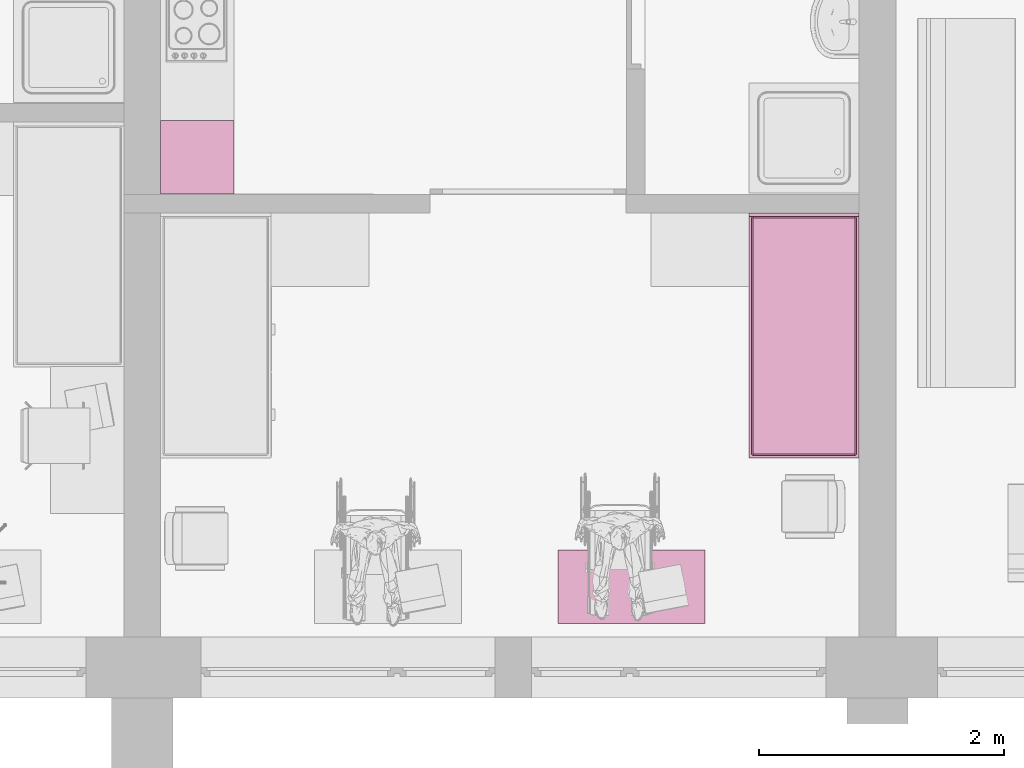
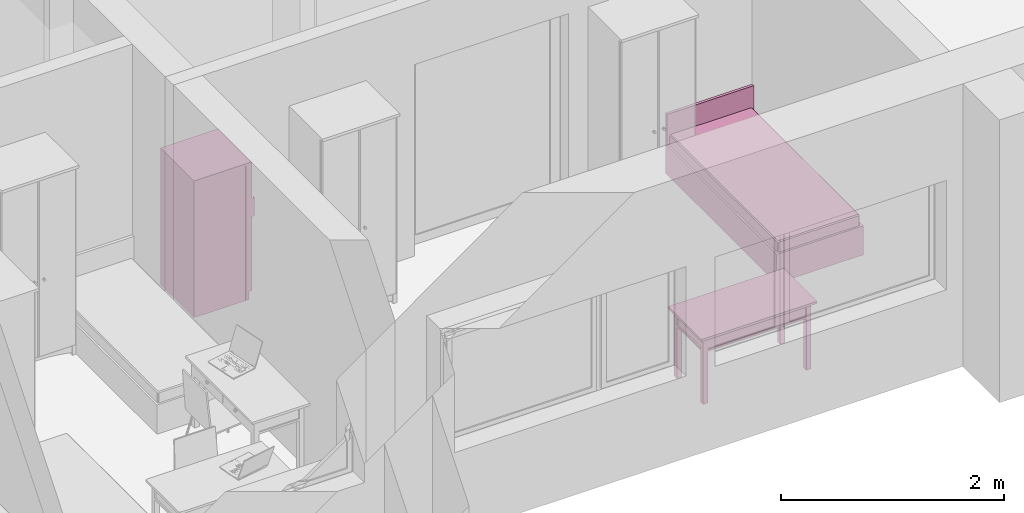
# One storey, part 119 of 172: 3 furnishings.
"""IFC2X3 building model written with IfcOpenShell, lengths in millimetres."""

from ifc_helpers import new_model, entity, si_unit, converted_unit, money_unit, direction, frame, origin_with_axes, place, context, subcontext, project, spatial, open_shell, faceted_brep, surface_model, source, transform, mapped, material, material_list, type_object, element, save


model = new_model("IFC2X3")

# Units and contexts
model_context = context("Model", 3, precision=1e-05, world=origin_with_axes(), true_north=direction((0.0, 1.0)))
body_context = subcontext(model_context, "Body", "Model", "MODEL_VIEW")
ifc_project = project(units=[si_unit("LENGTHUNIT", "METRE", prefix="MILLI"), si_unit("AREAUNIT", "SQUARE_METRE"), si_unit("VOLUMEUNIT", "CUBIC_METRE"), converted_unit("PLANEANGLEUNIT", "DEGREE", entity("IfcPlaneAngleMeasure", 0.0174532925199), si_unit("PLANEANGLEUNIT", "RADIAN"), dimensions=[0, 0, 0, 0, 0, 0, 0]), si_unit("SOLIDANGLEUNIT", "STERADIAN"), money_unit("USD"), converted_unit("TIMEUNIT", "Year", entity("IfcTimeMeasure", 31556926.0), si_unit("TIMEUNIT", "SECOND"), dimensions=[0, 0, 0, 0, 0, 0, 0]), si_unit("MASSUNIT", "GRAM"), si_unit("THERMODYNAMICTEMPERATUREUNIT", "DEGREE_CELSIUS"), si_unit("LUMINOUSINTENSITYUNIT", "LUMEN")], contexts=[model_context])

# Site, building, storey
site_placement = place(None, origin_with_axes())
site = spatial("IfcSite", under=ifc_project, at=site_placement, Name="Site", CompositionType="ELEMENT")
building_placement = place(site_placement, origin_with_axes())
building = spatial("IfcBuilding", under=site, at=building_placement, Name="Building", CompositionType="ELEMENT")
storey_placement = place(building_placement, frame((0.0, 0.0, 3200.0), z_axis=(0.0, 0.0, 1.0), x_axis=(1.0, 0.0, 0.0)))
storey = spatial("IfcBuildingStorey", under=building, at=storey_placement, Name="3KORRUS", CompositionType="ELEMENT", Elevation=3200.0)

# Furnishings
ifc_material = material(Name="Background")
ifc_material_list = material_list([ifc_material])
furnishing_element_type_1 = type_object("IfcFurnishingElementType", Name="Bed 19")
shared_shape_1 = source(origin_with_axes(), body_context, "Body", "Brep", [
    faceted_brep([(900.0, 1970.0, 0.0), (0.0, 1970.0, 0.0), (0.0, 2000.0, 0.0), (900.0, 2000.0, 0.0), (900.0, 1970.0, 660.0), (0.0, 1970.0, 660.0), (0.0, 2000.0, 660.0), (900.0, 2000.0, 660.0)], [[[0, 1, 2, 3]], [[1, 0, 4, 5]], [[2, 1, 5, 6]], [[3, 2, 6, 7]], [[0, 3, 7, 4]], [[5, 4, 7, 6]]]),
    faceted_brep([(900.0, 0.0, 0.0), (0.0, 0.0, 0.0), (0.0, 1970.0, 0.0), (900.0, 1970.0, 0.0), (900.0, 0.0, 320.0), (0.0, 0.0, 320.0), (0.0, 1970.0, 320.0), (900.0, 1970.0, 320.0)], [[[0, 1, 2, 3]], [[1, 0, 4, 5]], [[2, 1, 5, 6]], [[3, 2, 6, 7]], [[0, 3, 7, 4]], [[5, 4, 7, 6]]]),
    faceted_brep([(905.0, 10.0, 30.0), (900.0, 10.0, 30.0), (900.0, 695.0, 30.0), (905.0, 695.0, 30.0), (905.0, 10.0, 290.0), (900.0, 10.0, 290.0), (900.0, 695.0, 290.0), (905.0, 695.0, 290.0)], [[[0, 1, 2, 3]], [[1, 0, 4, 5]], [[2, 1, 5, 6]], [[3, 2, 6, 7]], [[0, 3, 7, 4]], [[5, 4, 7, 6]]]),
    faceted_brep([(935.0, 307.5, 150.0), (905.0, 307.5, 150.0), (905.0, 397.5, 150.0), (935.0, 397.5, 150.0), (935.0, 307.5, 170.0), (905.0, 307.5, 170.0), (905.0, 397.5, 170.0), (935.0, 397.5, 170.0)], [[[0, 1, 2, 3]], [[1, 0, 4, 5]], [[2, 1, 5, 6]], [[3, 2, 6, 7]], [[0, 3, 7, 4]], [[5, 4, 7, 6]]]),
    faceted_brep([(905.0, 705.0, 30.0), (900.0, 705.0, 30.0), (900.0, 1390.0, 30.0), (905.0, 1390.0, 30.0), (905.0, 705.0, 290.0), (900.0, 705.0, 290.0), (900.0, 1390.0, 290.0), (905.0, 1390.0, 290.0)], [[[0, 1, 2, 3]], [[1, 0, 4, 5]], [[2, 1, 5, 6]], [[3, 2, 6, 7]], [[0, 3, 7, 4]], [[5, 4, 7, 6]]]),
    faceted_brep([(935.0, 1002.5, 150.0), (905.0, 1002.5, 150.0), (905.0, 1092.5, 150.0), (935.0, 1092.5, 150.0), (935.0, 1002.5, 170.0), (905.0, 1002.5, 170.0), (905.0, 1092.5, 170.0), (935.0, 1092.5, 170.0)], [[[0, 1, 2, 3]], [[1, 0, 4, 5]], [[2, 1, 5, 6]], [[3, 2, 6, 7]], [[0, 3, 7, 4]], [[5, 4, 7, 6]]]),
    faceted_brep([(20.0, 40.0, 350.0), (20.0, 1950.0, 350.0), (21.522, 1957.654, 350.0), (25.858, 1964.142, 350.0), (32.346, 1968.478, 350.0), (40.0, 1970.0, 350.0), (860.0, 1970.0, 350.0), (867.654, 1968.478, 350.0), (874.142, 1964.142, 350.0), (878.478, 1957.654, 350.0), (880.0, 1950.0, 350.0), (880.0, 40.0, 350.0), (878.478, 32.346, 350.0), (874.142, 25.858, 350.0), (867.654, 21.522, 350.0), (860.0, 20.0, 350.0), (40.0, 20.0, 350.0), (32.346, 21.522, 350.0), (25.858, 25.858, 350.0), (21.522, 32.346, 350.0), (20.0, 40.0, 420.0), (20.0, 1950.0, 420.0), (21.522, 1957.654, 420.0), (25.858, 1964.142, 420.0), (32.346, 1968.478, 420.0), (40.0, 1970.0, 420.0), (860.0, 1970.0, 420.0), (867.654, 1968.478, 420.0), (874.142, 1964.142, 420.0), (878.478, 1957.654, 420.0), (880.0, 1950.0, 420.0), (880.0, 40.0, 420.0), (878.478, 32.346, 420.0), (874.142, 25.858, 420.0), (867.654, 21.522, 420.0), (860.0, 20.0, 420.0), (40.0, 20.0, 420.0), (32.346, 21.522, 420.0), (25.858, 25.858, 420.0), (21.522, 32.346, 420.0), (21.522, 40.15, 427.654), (21.522, 1949.85, 427.654), (22.956, 1957.06, 427.654), (26.955, 1963.045, 427.654), (32.94, 1967.044, 427.654), (40.15, 1968.478, 427.654), (859.85, 1968.478, 427.654), (867.06, 1967.044, 427.654), (873.045, 1963.045, 427.654), (877.044, 1957.06, 427.654), (878.478, 1949.85, 427.654), (878.478, 40.15, 427.654), (877.044, 32.94, 427.654), (873.045, 26.955, 427.654), (867.06, 22.956, 427.654), (859.85, 21.522, 427.654), (40.15, 21.522, 427.654), (32.94, 22.956, 427.654), (26.955, 26.955, 427.654), (22.956, 32.94, 427.654), (32.346, 41.216, 438.478), (32.346, 1948.784, 438.478), (33.152, 1952.836, 438.478), (34.759, 1955.241, 438.478), (37.164, 1956.848, 438.478), (41.216, 1957.654, 438.478), (858.784, 1957.654, 438.478), (862.836, 1956.848, 438.478), (865.241, 1955.241, 438.478), (866.848, 1952.836, 438.478), (867.654, 1948.784, 438.478), (867.654, 41.216, 438.478), (866.848, 37.164, 438.478), (865.241, 34.759, 438.478), (862.836, 33.152, 438.478), (858.784, 32.346, 438.478), (41.216, 32.346, 438.478), (37.164, 33.152, 438.478), (34.759, 34.759, 438.478), (33.152, 37.164, 438.478), (40.0, 41.97, 440.0), (40.0, 1948.03, 440.0), (40.327, 1949.673, 440.0), (40.0, 1950.0, 439.924), (41.97, 1950.0, 440.0), (858.03, 1950.0, 440.0), (859.673, 1949.673, 440.0), (860.0, 1950.0, 439.924), (860.0, 1948.03, 440.0), (860.0, 41.97, 440.0), (859.673, 40.327, 440.0), (860.0, 40.0, 439.924), (858.03, 40.0, 440.0), (41.97, 40.0, 440.0), (40.327, 40.327, 440.0), (40.0, 40.0, 439.924)], [[[0, 1, 2, 3, 4, 5, 6, 7, 8, 9, 10, 11, 12, 13, 14, 15, 16, 17, 18, 19]], [[1, 0, 20, 21]], [[2, 1, 21, 22]], [[3, 2, 22, 23]], [[4, 3, 23, 24]], [[5, 4, 24, 25]], [[6, 5, 25, 26]], [[7, 6, 26, 27]], [[8, 7, 27, 28]], [[9, 8, 28, 29]], [[10, 9, 29, 30]], [[11, 10, 30, 31]], [[12, 11, 31, 32]], [[13, 12, 32, 33]], [[14, 13, 33, 34]], [[15, 14, 34, 35]], [[16, 15, 35, 36]], [[17, 16, 36, 37]], [[18, 17, 37, 38]], [[19, 18, 38, 39]], [[0, 19, 39, 20]], [[21, 20, 40, 41]], [[22, 21, 41, 42]], [[23, 22, 42, 43]], [[24, 23, 43, 44]], [[25, 24, 44, 45]], [[26, 25, 45, 46]], [[27, 26, 46, 47]], [[28, 27, 47, 48]], [[29, 28, 48, 49]], [[30, 29, 49, 50]], [[31, 30, 50, 51]], [[32, 31, 51, 52]], [[33, 32, 52, 53]], [[34, 33, 53, 54]], [[35, 34, 54, 55]], [[36, 35, 55, 56]], [[37, 36, 56, 57]], [[38, 37, 57, 58]], [[39, 38, 58, 59]], [[20, 39, 59, 40]], [[41, 40, 60, 61]], [[42, 41, 61, 62]], [[43, 42, 62, 63]], [[44, 43, 63, 64]], [[45, 44, 64, 65]], [[46, 45, 65, 66]], [[47, 46, 66, 67]], [[48, 47, 67, 68]], [[49, 48, 68, 69]], [[50, 49, 69, 70]], [[51, 50, 70, 71]], [[52, 51, 71, 72]], [[53, 52, 72, 73]], [[54, 53, 73, 74]], [[55, 54, 74, 75]], [[56, 55, 75, 76]], [[57, 56, 76, 77]], [[58, 57, 77, 78]], [[59, 58, 78, 79]], [[40, 59, 79, 60]], [[61, 60, 80, 81]], [[62, 61, 81, 82, 83]], [[63, 62, 83]], [[64, 63, 83]], [[65, 64, 83, 82, 84]], [[66, 65, 84, 85]], [[67, 66, 85, 86, 87]], [[68, 67, 87]], [[69, 68, 87]], [[70, 69, 87, 86, 88]], [[71, 70, 88, 89]], [[72, 71, 89, 90, 91]], [[73, 72, 91]], [[74, 73, 91]], [[75, 74, 91, 90, 92]], [[76, 75, 92, 93]], [[77, 76, 93, 94, 95]], [[78, 77, 95]], [[79, 78, 95]], [[60, 79, 95, 94, 80]], [[81, 80, 94, 93, 92, 90, 89, 88, 86, 85, 84, 82]]]),
    faceted_brep([(20.0, 40.0, 350.0), (21.522, 32.346, 350.0), (25.858, 25.858, 350.0), (32.346, 21.522, 350.0), (40.0, 20.0, 350.0), (860.0, 20.0, 350.0), (867.654, 21.522, 350.0), (874.142, 25.858, 350.0), (878.478, 32.346, 350.0), (880.0, 40.0, 350.0), (880.0, 1950.0, 350.0), (878.478, 1957.654, 350.0), (874.142, 1964.142, 350.0), (867.654, 1968.478, 350.0), (860.0, 1970.0, 350.0), (40.0, 1970.0, 350.0), (32.346, 1968.478, 350.0), (25.858, 1964.142, 350.0), (21.522, 1957.654, 350.0), (20.0, 1950.0, 350.0), (20.0, 40.0, 320.0), (21.522, 32.346, 320.0), (25.858, 25.858, 320.0), (32.346, 21.522, 320.0), (40.0, 20.0, 320.0), (860.0, 20.0, 320.0), (867.654, 21.522, 320.0), (874.142, 25.858, 320.0), (878.478, 32.346, 320.0), (880.0, 40.0, 320.0), (880.0, 1950.0, 320.0), (878.478, 1957.654, 320.0), (874.142, 1964.142, 320.0), (867.654, 1968.478, 320.0), (860.0, 1970.0, 320.0), (40.0, 1970.0, 320.0), (32.346, 1968.478, 320.0), (25.858, 1964.142, 320.0), (21.522, 1957.654, 320.0), (20.0, 1950.0, 320.0)], [[[0, 1, 2, 3, 4, 5, 6, 7, 8, 9, 10, 11, 12, 13, 14, 15, 16, 17, 18, 19]], [[0, 20, 21, 1]], [[1, 21, 22, 2]], [[2, 22, 23, 3]], [[3, 23, 24, 4]], [[4, 24, 25, 5]], [[5, 25, 26, 6]], [[6, 26, 27, 7]], [[7, 27, 28, 8]], [[8, 28, 29, 9]], [[9, 29, 30, 10]], [[10, 30, 31, 11]], [[11, 31, 32, 12]], [[12, 32, 33, 13]], [[13, 33, 34, 14]], [[14, 34, 35, 15]], [[15, 35, 36, 16]], [[16, 36, 37, 17]], [[17, 37, 38, 18]], [[18, 38, 39, 19]], [[19, 39, 20, 0]], [[20, 39, 38, 37, 36, 35, 34, 33, 32, 31, 30, 29, 28, 27, 26, 25, 24, 23, 22, 21]]]),
])
furnishing_1_placement = place(storey_placement, frame((-13190.2967033, -18179.7357921, 0.0), z_axis=(0.0, 0.0, 1.0), x_axis=(1.0, 0.0, 0.0)))
element("IfcFurnishingElement", 1, at=furnishing_1_placement, inside=storey, type_object=furnishing_element_type_1, material=ifc_material_list, Name="FU - 013", context=body_context, shape_type="MappedRepresentation", body=[
    mapped(shared_shape_1, transform((0.0, 0.0, 0.0))),
])
furnishing_element_type_2 = type_object("IfcFurnishingElementType", Name="Rectangular Table 01 19")
shared_shape_2 = source(origin_with_axes(), body_context, "Body", "Brep", [
    faceted_brep([(90.0, 40.0, 0.0), (40.0, 40.0, 0.0), (40.0, 90.0, 0.0), (90.0, 90.0, 0.0), (90.0, 40.0, 725.0), (40.0, 40.0, 725.0), (40.0, 90.0, 725.0), (90.0, 90.0, 725.0)], [[[0, 1, 2, 3]], [[1, 0, 4, 5]], [[2, 1, 5, 6]], [[3, 2, 6, 7]], [[0, 3, 7, 4]], [[5, 4, 7, 6]]]),
    faceted_brep([(1160.0, 40.0, 0.0), (1110.0, 40.0, 0.0), (1110.0, 90.0, 0.0), (1160.0, 90.0, 0.0), (1160.0, 40.0, 725.0), (1110.0, 40.0, 725.0), (1110.0, 90.0, 725.0), (1160.0, 90.0, 725.0)], [[[0, 1, 2, 3]], [[1, 0, 4, 5]], [[2, 1, 5, 6]], [[3, 2, 6, 7]], [[0, 3, 7, 4]], [[5, 4, 7, 6]]]),
    faceted_brep([(90.0, 510.0, 0.0), (40.0, 510.0, 0.0), (40.0, 560.0, 0.0), (90.0, 560.0, 0.0), (90.0, 510.0, 725.0), (40.0, 510.0, 725.0), (40.0, 560.0, 725.0), (90.0, 560.0, 725.0)], [[[0, 1, 2, 3]], [[1, 0, 4, 5]], [[2, 1, 5, 6]], [[3, 2, 6, 7]], [[0, 3, 7, 4]], [[5, 4, 7, 6]]]),
    faceted_brep([(1160.0, 510.0, 0.0), (1110.0, 510.0, 0.0), (1110.0, 560.0, 0.0), (1160.0, 560.0, 0.0), (1160.0, 510.0, 725.0), (1110.0, 510.0, 725.0), (1110.0, 560.0, 725.0), (1160.0, 560.0, 725.0)], [[[0, 1, 2, 3]], [[1, 0, 4, 5]], [[2, 1, 5, 6]], [[3, 2, 6, 7]], [[0, 3, 7, 4]], [[5, 4, 7, 6]]]),
    faceted_brep([(1160.0, 40.0, 565.0), (40.0, 40.0, 565.0), (40.0, 560.0, 565.0), (1160.0, 560.0, 565.0), (1160.0, 40.0, 585.0), (40.0, 40.0, 585.0), (40.0, 560.0, 585.0), (1160.0, 560.0, 585.0)], [[[0, 1, 2, 3]], [[1, 0, 4, 5]], [[2, 1, 5, 6]], [[3, 2, 6, 7]], [[0, 3, 7, 4]], [[5, 4, 7, 6]]]),
    faceted_brep([(1110.0, 52.5, 585.0), (90.0, 52.5, 585.0), (90.0, 77.5, 585.0), (1110.0, 77.5, 585.0), (1110.0, 52.5, 745.0), (90.0, 52.5, 745.0), (90.0, 77.5, 745.0), (1110.0, 77.5, 745.0)], [[[0, 1, 2, 3]], [[1, 0, 4, 5]], [[2, 1, 5, 6]], [[3, 2, 6, 7]], [[0, 3, 7, 4]], [[5, 4, 7, 6]]]),
    faceted_brep([(77.5, 90.0, 585.0), (52.5, 90.0, 585.0), (52.5, 510.0, 585.0), (77.5, 510.0, 585.0), (77.5, 90.0, 745.0), (52.5, 90.0, 745.0), (52.5, 510.0, 745.0), (77.5, 510.0, 745.0)], [[[0, 1, 2, 3]], [[1, 0, 4, 5]], [[2, 1, 5, 6]], [[3, 2, 6, 7]], [[0, 3, 7, 4]], [[5, 4, 7, 6]]]),
    faceted_brep([(90.0, 547.5, 585.0), (1110.0, 547.5, 585.0), (1110.0, 522.5, 585.0), (90.0, 522.5, 585.0), (90.0, 547.5, 745.0), (1110.0, 547.5, 745.0), (1110.0, 522.5, 745.0), (90.0, 522.5, 745.0)], [[[0, 1, 2, 3]], [[1, 0, 4, 5]], [[2, 1, 5, 6]], [[3, 2, 6, 7]], [[0, 3, 7, 4]], [[5, 4, 7, 6]]]),
    faceted_brep([(1122.5, 510.0, 585.0), (1147.5, 510.0, 585.0), (1147.5, 90.0, 585.0), (1122.5, 90.0, 585.0), (1122.5, 510.0, 745.0), (1147.5, 510.0, 745.0), (1147.5, 90.0, 745.0), (1122.5, 90.0, 745.0)], [[[0, 1, 2, 3]], [[1, 0, 4, 5]], [[2, 1, 5, 6]], [[3, 2, 6, 7]], [[0, 3, 7, 4]], [[5, 4, 7, 6]]]),
    faceted_brep([(597.5, 40.0, 585.0), (95.0, 40.0, 585.0), (95.0, 60.0, 585.0), (597.5, 60.0, 585.0), (597.5, 40.0, 745.0), (95.0, 40.0, 745.0), (95.0, 60.0, 745.0), (597.5, 60.0, 745.0)], [[[0, 1, 2, 3]], [[1, 0, 4, 5]], [[2, 1, 5, 6]], [[3, 2, 6, 7]], [[0, 3, 7, 4]], [[5, 4, 7, 6]]]),
    faceted_brep([(1105.0, 40.0, 585.0), (602.5, 40.0, 585.0), (602.5, 60.0, 585.0), (1105.0, 60.0, 585.0), (1105.0, 40.0, 745.0), (602.5, 40.0, 745.0), (602.5, 60.0, 745.0), (1105.0, 60.0, 745.0)], [[[0, 1, 2, 3]], [[1, 0, 4, 5]], [[2, 1, 5, 6]], [[3, 2, 6, 7]], [[0, 3, 7, 4]], [[5, 4, 7, 6]]]),
    faceted_brep([(354.91, 40.0, 660.0), (351.25, 40.0, 656.34), (346.25, 40.0, 655.0), (341.25, 40.0, 656.34), (337.59, 40.0, 660.0), (336.25, 40.0, 665.0), (337.59, 40.0, 670.0), (341.25, 40.0, 673.66), (346.25, 40.0, 675.0), (351.25, 40.0, 673.66), (354.91, 40.0, 670.0), (356.25, 40.0, 665.0), (354.91, 25.0, 660.0), (351.25, 25.0, 656.34), (346.25, 25.0, 655.0), (341.25, 25.0, 656.34), (337.59, 25.0, 660.0), (336.25, 25.0, 665.0), (337.59, 25.0, 670.0), (341.25, 25.0, 673.66), (346.25, 25.0, 675.0), (351.25, 25.0, 673.66), (354.91, 25.0, 670.0), (356.25, 25.0, 665.0)], [[[0, 1, 2, 3, 4, 5, 6, 7, 8, 9, 10, 11]], [[1, 0, 12, 13]], [[2, 1, 13, 14]], [[3, 2, 14, 15]], [[4, 3, 15, 16]], [[5, 4, 16, 17]], [[6, 5, 17, 18]], [[7, 6, 18, 19]], [[8, 7, 19, 20]], [[9, 8, 20, 21]], [[10, 9, 21, 22]], [[11, 10, 22, 23]], [[0, 11, 23, 12]], [[12, 23, 22, 21, 20, 19, 18, 17, 16, 15, 14, 13]]]),
    faceted_brep([(356.25, 12.01, 665.0), (346.25, 10.0, 665.0), (354.91, 12.01, 660.0), (354.91, 12.01, 670.0), (351.25, 12.01, 656.34), (363.571, 17.5, 665.0), (361.25, 17.5, 656.34), (351.25, 12.01, 673.66), (361.25, 17.5, 673.66), (346.25, 12.01, 655.0), (354.91, 17.5, 650.0), (366.25, 25.0, 665.0), (363.571, 25.0, 655.0), (346.25, 12.01, 675.0), (354.91, 17.5, 680.0), (363.571, 25.0, 675.0), (341.25, 12.01, 656.34), (346.25, 17.5, 647.679), (356.25, 25.0, 647.679), (346.25, 25.0, 645.0), (336.25, 25.0, 647.679), (328.929, 25.0, 655.0), (326.25, 25.0, 665.0), (328.929, 25.0, 675.0), (336.25, 25.0, 682.321), (346.25, 25.0, 685.0), (356.25, 25.0, 682.321), (341.25, 12.01, 673.66), (346.25, 17.5, 682.321), (337.59, 12.01, 660.0), (337.59, 17.5, 650.0), (331.25, 17.5, 656.34), (328.929, 17.5, 665.0), (331.25, 17.5, 673.66), (337.59, 17.5, 680.0), (337.59, 12.01, 670.0), (336.25, 12.01, 665.0)], [[[0, 1, 2]], [[3, 1, 0]], [[2, 1, 4]], [[5, 0, 2, 6]], [[7, 1, 3]], [[8, 3, 0, 5]], [[4, 1, 9]], [[6, 2, 4, 10]], [[11, 5, 6, 12]], [[13, 1, 7]], [[14, 7, 3, 8]], [[15, 8, 5, 11]], [[9, 1, 16]], [[10, 4, 9, 17]], [[12, 6, 10, 18]], [[12, 18, 19, 20, 21, 22, 23, 24, 25, 26, 15, 11]], [[27, 1, 13]], [[28, 13, 7, 14]], [[26, 14, 8, 15]], [[16, 1, 29]], [[17, 9, 16, 30]], [[18, 10, 17, 19]], [[19, 17, 30, 20]], [[20, 30, 31, 21]], [[21, 31, 32, 22]], [[22, 32, 33, 23]], [[23, 33, 34, 24]], [[24, 34, 28, 25]], [[25, 28, 14, 26]], [[35, 1, 27]], [[34, 27, 13, 28]], [[29, 1, 36]], [[30, 16, 29, 31]], [[31, 29, 36, 32]], [[32, 36, 35, 33]], [[33, 35, 27, 34]], [[36, 1, 35]]]),
    faceted_brep([(862.41, 40.0, 660.0), (858.75, 40.0, 656.34), (853.75, 40.0, 655.0), (848.75, 40.0, 656.34), (845.09, 40.0, 660.0), (843.75, 40.0, 665.0), (845.09, 40.0, 670.0), (848.75, 40.0, 673.66), (853.75, 40.0, 675.0), (858.75, 40.0, 673.66), (862.41, 40.0, 670.0), (863.75, 40.0, 665.0), (862.41, 25.0, 660.0), (858.75, 25.0, 656.34), (853.75, 25.0, 655.0), (848.75, 25.0, 656.34), (845.09, 25.0, 660.0), (843.75, 25.0, 665.0), (845.09, 25.0, 670.0), (848.75, 25.0, 673.66), (853.75, 25.0, 675.0), (858.75, 25.0, 673.66), (862.41, 25.0, 670.0), (863.75, 25.0, 665.0)], [[[0, 1, 2, 3, 4, 5, 6, 7, 8, 9, 10, 11]], [[1, 0, 12, 13]], [[2, 1, 13, 14]], [[3, 2, 14, 15]], [[4, 3, 15, 16]], [[5, 4, 16, 17]], [[6, 5, 17, 18]], [[7, 6, 18, 19]], [[8, 7, 19, 20]], [[9, 8, 20, 21]], [[10, 9, 21, 22]], [[11, 10, 22, 23]], [[0, 11, 23, 12]], [[12, 23, 22, 21, 20, 19, 18, 17, 16, 15, 14, 13]]]),
    faceted_brep([(863.75, 12.01, 665.0), (853.75, 10.0, 665.0), (862.41, 12.01, 660.0), (862.41, 12.01, 670.0), (858.75, 12.01, 656.34), (871.071, 17.5, 665.0), (868.75, 17.5, 656.34), (858.75, 12.01, 673.66), (868.75, 17.5, 673.66), (853.75, 12.01, 655.0), (862.41, 17.5, 650.0), (873.75, 25.0, 665.0), (871.071, 25.0, 655.0), (853.75, 12.01, 675.0), (862.41, 17.5, 680.0), (871.071, 25.0, 675.0), (848.75, 12.01, 656.34), (853.75, 17.5, 647.679), (863.75, 25.0, 647.679), (853.75, 25.0, 645.0), (843.75, 25.0, 647.679), (836.429, 25.0, 655.0), (833.75, 25.0, 665.0), (836.429, 25.0, 675.0), (843.75, 25.0, 682.321), (853.75, 25.0, 685.0), (863.75, 25.0, 682.321), (848.75, 12.01, 673.66), (853.75, 17.5, 682.321), (845.09, 12.01, 660.0), (845.09, 17.5, 650.0), (838.75, 17.5, 656.34), (836.429, 17.5, 665.0), (838.75, 17.5, 673.66), (845.09, 17.5, 680.0), (845.09, 12.01, 670.0), (843.75, 12.01, 665.0)], [[[0, 1, 2]], [[3, 1, 0]], [[2, 1, 4]], [[5, 0, 2, 6]], [[7, 1, 3]], [[8, 3, 0, 5]], [[4, 1, 9]], [[6, 2, 4, 10]], [[11, 5, 6, 12]], [[13, 1, 7]], [[14, 7, 3, 8]], [[15, 8, 5, 11]], [[9, 1, 16]], [[10, 4, 9, 17]], [[12, 6, 10, 18]], [[12, 18, 19, 20, 21, 22, 23, 24, 25, 26, 15, 11]], [[27, 1, 13]], [[28, 13, 7, 14]], [[26, 14, 8, 15]], [[16, 1, 29]], [[17, 9, 16, 30]], [[18, 10, 17, 19]], [[19, 17, 30, 20]], [[20, 30, 31, 21]], [[21, 31, 32, 22]], [[22, 32, 33, 23]], [[23, 33, 34, 24]], [[24, 34, 28, 25]], [[25, 28, 14, 26]], [[35, 1, 27]], [[34, 27, 13, 28]], [[29, 1, 36]], [[30, 16, 29, 31]], [[31, 29, 36, 32]], [[32, 36, 35, 33]], [[33, 35, 27, 34]], [[36, 1, 35]]]),
    faceted_brep([(1200.0, 0.0, 725.0), (0.0, 0.0, 725.0), (0.0, 600.0, 725.0), (1200.0, 600.0, 725.0), (1200.0, 0.0, 750.0), (0.0, 0.0, 750.0), (0.0, 600.0, 750.0), (1200.0, 600.0, 750.0)], [[[0, 1, 2, 3]], [[1, 0, 4, 5]], [[2, 1, 5, 6]], [[3, 2, 6, 7]], [[0, 3, 7, 4]], [[5, 4, 7, 6]]]),
])
furnishing_2_placement = place(storey_placement, frame((-13548.4995694, -18929.2398994, 0.0), z_axis=(0.0, 0.0, 1.0), x_axis=(-1.0, 0.0, 0.0)))
element("IfcFurnishingElement", 2, at=furnishing_2_placement, inside=storey, type_object=furnishing_element_type_2, material=ifc_material_list, Name="FU - 011", context=body_context, shape_type="MappedRepresentation", body=[
    mapped(shared_shape_2, transform((0.0, 0.0, 0.0))),
])
furnishing_element_type_3 = type_object("IfcFurnishingElementType", Name="Refrigerator 19")
shared_shape_3 = source(origin_with_axes(), body_context, "Body", "SurfaceModel", [
    faceted_brep([(0.0, 0.0, 1475.0), (0.0, 0.0, 1500.0), (-600.0, 0.0, 1500.0), (-600.0, 0.0, 1475.0), (0.0, 600.0, 1475.0), (0.0, 600.0, 1500.0), (-600.0, 600.0, 1500.0), (-600.0, 600.0, 1475.0)], [[[0, 1, 2, 3]], [[4, 5, 1, 0]], [[1, 5, 6, 2]], [[3, 2, 6, 7]], [[0, 3, 7, 4]], [[7, 6, 5, 4]]]),
    faceted_brep([(0.0, 65.0, 0.0), (0.0, 65.0, 1475.0), (-600.0, 65.0, 1475.0), (-600.0, 65.0, 0.0), (0.0, 600.0, 0.0), (0.0, 600.0, 1475.0), (-600.0, 600.0, 1475.0), (-600.0, 600.0, 0.0)], [[[0, 1, 2, 3]], [[4, 5, 1, 0]], [[1, 5, 6, 2]], [[3, 2, 6, 7]], [[0, 3, 7, 4]], [[7, 6, 5, 4]]]),
    faceted_brep([(0.0, 30.0, 0.0), (0.0, 30.0, 90.0), (-600.0, 30.0, 90.0), (-600.0, 30.0, 0.0), (0.0, 60.0, 0.0), (0.0, 60.0, 90.0), (-600.0, 60.0, 90.0), (-600.0, 60.0, 0.0)], [[[0, 1, 2, 3]], [[4, 5, 1, 0]], [[1, 5, 6, 2]], [[3, 2, 6, 7]], [[0, 3, 7, 4]], [[7, 6, 5, 4]]]),
    faceted_brep([(0.0, 60.0, 90.0), (0.0, 0.0, 90.0), (-600.0, 0.0, 90.0), (-600.0, 60.0, 90.0), (0.0, 60.0, 1474.5), (0.0, 0.0, 1474.5), (-600.0, 0.0, 1474.5), (-600.0, 60.0, 1474.5)], [[[0, 1, 2, 3]], [[4, 5, 1, 0]], [[1, 5, 6, 2]], [[3, 2, 6, 7]], [[0, 3, 7, 4]], [[7, 6, 5, 4]]]),
    surface_model("IfcShellBasedSurfaceModel", [(-600.0, -30.0, 900.0), (-600.0, 0.0, 900.0), (-600.0, 0.0, 1100.0), (-600.0, -30.0, 1100.0)], [open_shell([[[0, 1, 2, 3]]])]),
    surface_model("IfcShellBasedSurfaceModel", [(-600.0, -30.0, 900.0), (-570.0, -30.0, 900.0), (-570.0, -30.0, 1100.0), (-600.0, -30.0, 1100.0)], [open_shell([[[0, 1, 2, 3]]])]),
])
furnishing_3_placement = place(storey_placement, frame((-17390.2967033, -15426.7357921, 0.0), z_axis=(0.0, 0.0, 1.0), x_axis=(0.0, 1.0, 0.0)))
element("IfcFurnishingElement", 3, at=furnishing_3_placement, inside=storey, type_object=furnishing_element_type_3, material=ifc_material_list, Name="FU - 007", context=body_context, shape_type="MappedRepresentation", body=[
    mapped(shared_shape_3, transform((0.0, 0.0, 0.0))),
])

save(model, "model.ifc")
